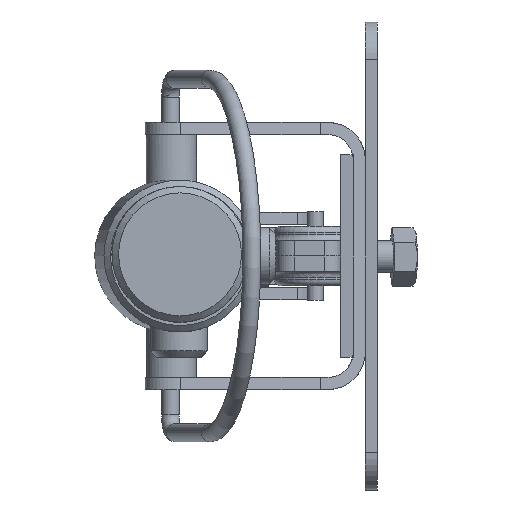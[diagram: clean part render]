
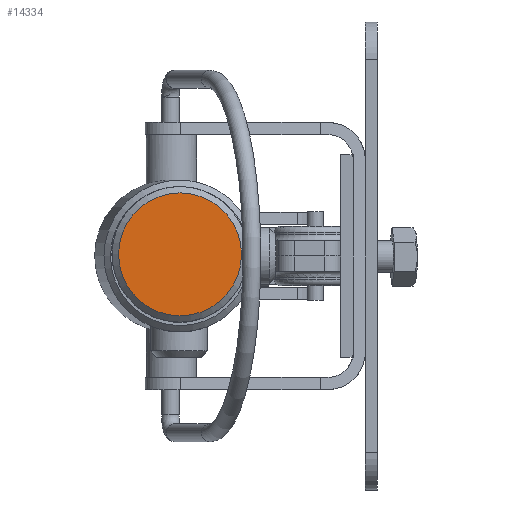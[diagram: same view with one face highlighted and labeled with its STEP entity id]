
A CAD part, front view. The second image highlights one B-rep face of the part: STEP entity #14334.
In plain terms, the highlighted planar face has unit normal (0.027, -1, 0).
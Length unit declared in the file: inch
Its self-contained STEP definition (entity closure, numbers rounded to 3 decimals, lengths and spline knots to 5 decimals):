
#14314=CARTESIAN_POINT('',(9.85506,-0.0836,0.00653));
#14315=VERTEX_POINT('',#14314);
#14316=CARTESIAN_POINT('',(10.09415,-0.07716,0.00653));
#14317=DIRECTION('',(-0.027,1.,0.));
#14318=DIRECTION('',(1.,0.027,0.));
#14319=AXIS2_PLACEMENT_3D('',#14316,#14317,#14318);
#14320=CIRCLE('',#14319,0.23917);
#14321=EDGE_CURVE('',#14315,#14315,#14320,.T.);
#14326=CARTESIAN_POINT('',(10.09415,-0.07716,0.00653));
#14327=DIRECTION('',(0.027,-1.,0.));
#14328=DIRECTION('',(-1.,-0.027,0.));
#14329=AXIS2_PLACEMENT_3D('',#14326,#14327,#14328);
#14330=PLANE('',#14329);
#14331=ORIENTED_EDGE('',*,*,#14321,.F.);
#14332=EDGE_LOOP('',(#14331));
#14333=FACE_OUTER_BOUND('',#14332,.T.);
#14334=ADVANCED_FACE('',(#14333),#14330,.T.);
